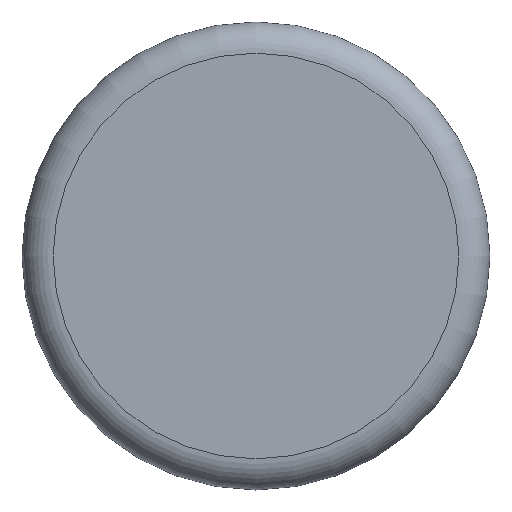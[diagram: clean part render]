
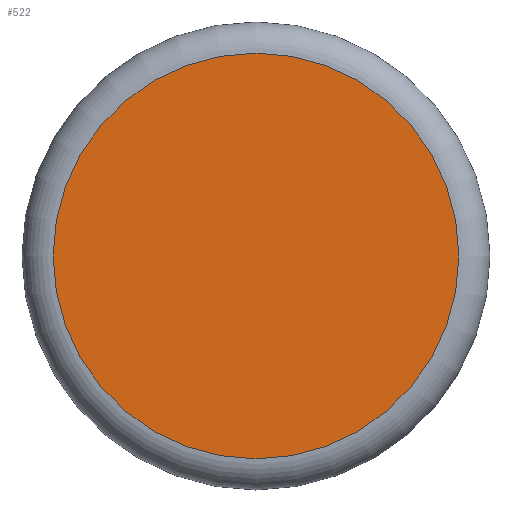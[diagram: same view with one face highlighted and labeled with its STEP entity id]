
A CAD part, front view. The second image highlights one B-rep face of the part: STEP entity #522.
In plain terms, the highlighted planar face has unit normal (0, -1, 0).
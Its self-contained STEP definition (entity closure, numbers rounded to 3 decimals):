
#22=PLANE('',#585);
#51=FACE_OUTER_BOUND('',#84,.T.);
#84=EDGE_LOOP('',(#415));
#108=CIRCLE('',#583,13.);
#240=VERTEX_POINT('',#1288);
#308=EDGE_CURVE('',#240,#240,#108,.T.);
#415=ORIENTED_EDGE('',*,*,#308,.F.);
#522=ADVANCED_FACE('',(#51),#22,.T.);
#583=AXIS2_PLACEMENT_3D('',#1289,#691,#692);
#585=AXIS2_PLACEMENT_3D('',#1291,#695,#696);
#691=DIRECTION('center_axis',(0.,1.,0.));
#692=DIRECTION('ref_axis',(-1.,0.,0.));
#695=DIRECTION('center_axis',(0.,-1.,0.));
#696=DIRECTION('ref_axis',(-1.,0.,0.));
#1288=CARTESIAN_POINT('',(20.,17.64,40.998));
#1289=CARTESIAN_POINT('Origin',(20.,17.64,27.998));
#1291=CARTESIAN_POINT('Origin',(20.,17.64,27.998));
